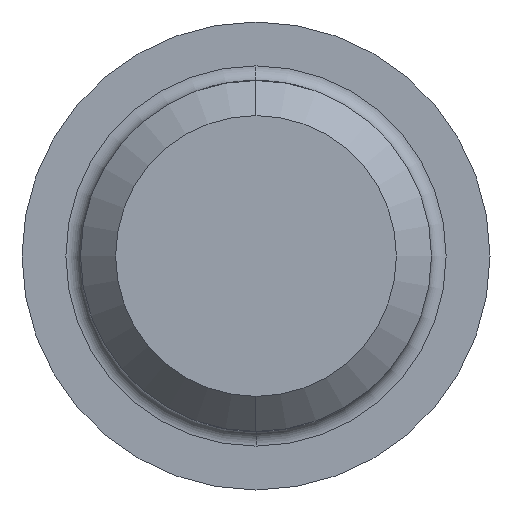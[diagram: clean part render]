
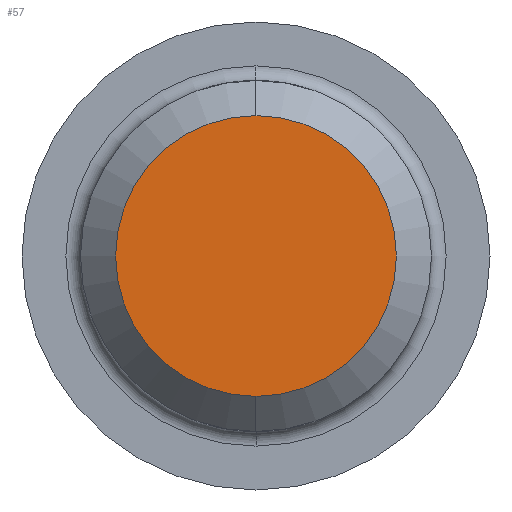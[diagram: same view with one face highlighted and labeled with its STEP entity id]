
A CAD part, left-side view. The second image highlights one B-rep face of the part: STEP entity #57.
In plain terms, the highlighted planar face has unit normal (-1, 0, 0).
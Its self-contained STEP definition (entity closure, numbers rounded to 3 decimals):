
#19 = ORIENTED_EDGE ( 'NONE', *, *, #127, .T. ) ;
#50 = VERTEX_POINT ( 'NONE', #167 ) ;
#57 = ADVANCED_FACE ( 'NONE', ( #159 ), #158, .F. ) ;
#60 = ORIENTED_EDGE ( 'NONE', *, *, #129, .T. ) ;
#127 = EDGE_CURVE ( 'NONE', #50, #207, #486, .T. ) ;
#128 = EDGE_LOOP ( 'NONE', ( #19, #60 ) ) ;
#129 = EDGE_CURVE ( 'NONE', #207, #50, #292, .T. ) ;
#146 = DIRECTION ( 'NONE',  ( 0., 0., -1. ) ) ;
#147 = DIRECTION ( 'NONE',  ( 1., 0., 0. ) ) ;
#148 = CARTESIAN_POINT ( 'NONE',  ( -70., 4.8, 0. ) ) ;
#151 = AXIS2_PLACEMENT_3D ( 'NONE', #148, #147, #146 ) ;
#158 = PLANE ( 'NONE',  #151 ) ;
#159 = FACE_OUTER_BOUND ( 'NONE', #128, .T. ) ;
#167 = CARTESIAN_POINT ( 'NONE',  ( -70., 0., -4.8 ) ) ;
#207 = VERTEX_POINT ( 'NONE', #282 ) ;
#282 = CARTESIAN_POINT ( 'NONE',  ( -70., 0., 4.8 ) ) ;
#283 = DIRECTION ( 'NONE',  ( 0., 0., 1. ) ) ;
#289 = DIRECTION ( 'NONE',  ( 0., 0., 1. ) ) ;
#291 = AXIS2_PLACEMENT_3D ( 'NONE', #432, #484, #283 ) ;
#292 = CIRCLE ( 'NONE', #291, 4.8 ) ;
#418 = DIRECTION ( 'NONE',  ( -1., 0., 0. ) ) ;
#419 = CARTESIAN_POINT ( 'NONE',  ( -70., 0., 0. ) ) ;
#420 = AXIS2_PLACEMENT_3D ( 'NONE', #419, #418, #289 ) ;
#432 = CARTESIAN_POINT ( 'NONE',  ( -70., 0., 0. ) ) ;
#484 = DIRECTION ( 'NONE',  ( -1., 0., 0. ) ) ;
#486 = CIRCLE ( 'NONE', #420, 4.8 ) ;
